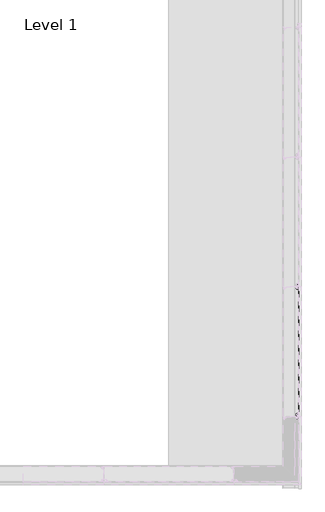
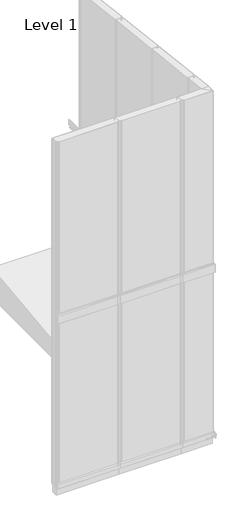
# One storey, part 3 of 12: 1 plate.
"""IFC4 building model written with IfcOpenShell, lengths in millimetres."""

from ifc_helpers import new_model, si_unit, frame, origin, place, context, project, spatial, polyline, circle_curve, ellipse_curve, element, save
from ifc_brep_helpers import plane_surface, cylinder_surface, revolved_surface, advanced_brep

model = new_model("IFC4")

# Units and contexts
model_context = context("Model", 3, world=origin())
ifc_project = project(units=[si_unit("LENGTHUNIT", "METRE", prefix="MILLI")], contexts=[model_context])

# Site, building, storey
site = spatial("IfcSite", under=ifc_project)
building = spatial("IfcBuilding", under=site)
storey = spatial("IfcBuildingStorey", under=building, Name="Level 1", Elevation=0.0)

# Plate
placement = place(None, origin())
element("IfcPlate", 1, ObjectType="TR_C_V_FHL_Panel : 120/RAL9006/RAL9002", at=placement, inside=storey, context=model_context, shape_type="AdvancedBrep", body=[
    advanced_brep(
    [(-3994.9155057, 5494.7075287, 2980.0), (-3994.9155057, 4506.1698321, 2980.0), (-3995.4720028, 4504.8263292, 2980.0), (-4000.2954046, 4500.0029273, 2980.0), (-4001.1155057, 4498.0230283, 2980.0), (-4001.1155057, 4495.2069118, 2980.0), (-4003.0155057, 4493.3069118, 2980.0), (-4008.9155057, 4493.3069118, 2980.0), (-4011.7155057, 4490.5069118, 2980.0), (-4011.7155057, 4471.3719831, 2980.0), (-4010.6206993, 4458.8582889, 2980.0), (-4002.8538462, 4457.9046392, 2980.0), (-4002.544232, 4458.8038241, 2980.0), (-4003.3006468, 4459.0642787, 2980.0), (-4003.610261, 4458.1650937, 2980.0), (-4009.8237435, 4458.9280134, 2980.0), (-4010.9155057, 4471.4069118, 2980.0), (-4010.9155057, 4490.5069118, 2980.0), (-4008.9155057, 4492.5069118, 2980.0), (-4003.0155057, 4492.5069118, 2980.0), (-4000.3155057, 4495.2069118, 2980.0), (-4000.3155057, 4498.0230283, 2980.0), (-3999.7297192, 4499.4372419, 2980.0), (-3994.9063173, 4504.2606438, 2980.0), (-3994.1155057, 4506.1698321, 2980.0), (-3994.1155057, 5494.7075287, 2980.0), (-3994.9741101, 5496.6821837, 2980.0), (-3996.9197088, 5498.4964839, 2980.0), (-4000.1155057, 5497.1069118, 2980.0), (-4000.1155057, 5464.7801836, 2980.0), (-4000.2517092, 5463.9662632, 2980.0), (-4002.5909089, 5457.1727339, 2980.0), (-4010.5519334, 5458.1502248, 2980.0), (-4011.4158468, 5468.0248012, 2980.0), (-4013.9063336, 5470.3069118, 2980.0), (-4014.9155057, 5470.3069118, 2980.0), (-4014.9155057, 5469.5069118, 2980.0), (-4013.9063336, 5469.5069118, 2980.0), (-4012.2128026, 5467.9550766, 2980.0), (-4011.3488891, 5458.0805002, 2980.0), (-4001.8344941, 5456.9122794, 2980.0), (-3999.4952944, 5463.7058087, 2980.0), (-3999.3155057, 5464.7801836, 2980.0), (-3999.3155057, 5497.1069118, 2980.0), (-3997.4653075, 5497.9114009, 2980.0), (-3995.5197088, 5496.0971008, 2980.0), (-3994.1155057, 4506.1698321, 198.4375488), (-3994.1155057, 5494.7075287, 313.3837926), (-3994.9155057, 5494.7075287, 313.3837926), (-3994.9155057, 4506.1698321, 198.4375488), (-3995.4720028, 4504.8263292, 198.2813276), (-4000.2954046, 4500.0029273, 197.7204669), (-4001.1155057, 4498.0230283, 197.4902461), (-4001.1155057, 4495.2069118, 197.1627907), (-4003.0155057, 4493.3069118, 196.9418604), (-4008.9155057, 4493.3069118, 196.9418604), (-4011.7155057, 4490.5069118, 196.616279), (-4011.7155057, 4471.3719831, 194.3912873), (-4010.6206993, 4458.8582889, 192.9362066), (-4002.8538462, 4457.9046392, 192.8253171), (-4002.544232, 4458.8038241, 192.9298735), (-4003.3006468, 4459.0642787, 192.9601589), (-4003.610261, 4458.1650937, 192.8556025), (-4009.8237435, 4458.9280134, 192.9443141), (-4010.9155057, 4471.4069118, 194.3953488), (-4010.9155057, 4490.5069118, 196.616279), (-4008.9155057, 4492.5069118, 196.8488372), (-4003.0155057, 4492.5069118, 196.8488372), (-4000.3155057, 4495.2069118, 197.1627907), (-4000.3155057, 4498.0230283, 197.4902461), (-3999.7297192, 4499.4372419, 197.6546895), (-3994.9063173, 4504.2606438, 198.2155502), (-3994.9741101, 5496.6821837, 313.6134037), (-3996.9197088, 5498.4964839, 313.8243688), (-4000.1155057, 5497.1069118, 313.6627907), (-4000.1155057, 5464.7801836, 309.9038688), (-4000.2517092, 5463.9662632, 309.8092269), (-4002.5909089, 5457.1727339, 309.0192816), (-4010.5519334, 5458.1502248, 309.1329433), (-4011.4158468, 5468.0248012, 310.2811499), (-4013.9063336, 5470.3069118, 310.5465116), (-4014.9155057, 5470.3069118, 310.5465116), (-4014.9155057, 5469.5069118, 310.4534883), (-4013.9063336, 5469.5069118, 310.4534883), (-4012.2128026, 5467.9550766, 310.2730424), (-4011.3488891, 5458.0805002, 309.1248358), (-4001.8344941, 5456.9122794, 308.9889962), (-3999.4952944, 5463.7058087, 309.7789415), (-3999.3155057, 5464.7801836, 309.9038688), (-3999.3155057, 5497.1069118, 313.6627907), (-3997.4653075, 5497.9114009, 313.7563359), (-3995.5197088, 5496.0971008, 313.5453708)],
    [
        (0, 1),
        (1, 2, circle_curve(frame((-3996.8155057, 4506.1698321, 2980.0), z_axis=(0.0, 0.0, -1.0), x_axis=(0.0, -1.0, 0.0)), 1.9)),
        (2, 3),
        (3, 4, circle_curve(frame((-3998.3155057, 4498.0230283, 2980.0), z_axis=(0.0, 0.0, 1.0), x_axis=(0.0, -1.0, 0.0)), 2.8)),
        (4, 5),
        (5, 6, circle_curve(frame((-4003.0155057, 4495.2069118, 2980.0), z_axis=(0.0, 0.0, -1.0), x_axis=(0.0, -1.0, 0.0)), 1.9)),
        (6, 7),
        (7, 8, circle_curve(frame((-4008.9155057, 4490.5069118, 2980.0), z_axis=(0.0, 0.0, 1.0), x_axis=(0.0, -1.0, 0.0)), 2.8)),
        (8, 9),
        (9, 10),
        (10, 11, circle_curve(frame((-4006.6359205, 4459.2069118, 2980.0), z_axis=(0.0, 0.0, 1.0), x_axis=(0.0, -1.0, 0.0)), 4.0)),
        (11, 12),
        (12, 13),
        (13, 14),
        (14, 15, circle_curve(frame((-4006.6359205, 4459.2069118, 2980.0), z_axis=(0.0, 0.0, -1.0), x_axis=(0.0, -1.0, 0.0)), 3.2)),
        (15, 16),
        (16, 17),
        (17, 18, circle_curve(frame((-4008.9155057, 4490.5069118, 2980.0), z_axis=(0.0, 0.0, -1.0), x_axis=(0.0, -1.0, 0.0)), 2.0)),
        (18, 19),
        (19, 20, circle_curve(frame((-4003.0155057, 4495.2069118, 2980.0), z_axis=(0.0, 0.0, 1.0), x_axis=(0.0, -1.0, 0.0)), 2.7)),
        (20, 21),
        (21, 22, circle_curve(frame((-3998.3155057, 4498.0230283, 2980.0), z_axis=(0.0, 0.0, -1.0), x_axis=(0.0, -1.0, 0.0)), 2.0)),
        (22, 23),
        (23, 24, circle_curve(frame((-3996.8155057, 4506.1698321, 2980.0), z_axis=(0.0, 0.0, 1.0), x_axis=(0.0, -1.0, 0.0)), 2.7)),
        (24, 25),
        (25, 26, circle_curve(frame((-3996.8155057, 5494.7075287, 2980.0), z_axis=(0.0, 0.0, 1.0), x_axis=(0.0, -1.0, 0.0)), 2.7)),
        (26, 27),
        (27, 28, circle_curve(frame((-3998.2155057, 5497.1069118, 2980.0), z_axis=(0.0, 0.0, 1.0), x_axis=(0.0, -1.0, 0.0)), 1.9)),
        (28, 29),
        (29, 30, circle_curve(frame((-4002.6155057, 5464.7801836, 2980.0), z_axis=(0.0, 0.0, -1.0), x_axis=(0.0, -1.0, 0.0)), 2.5)),
        (30, 31),
        (31, 32, circle_curve(frame((-4006.4675351, 5458.5075634, 2980.0), z_axis=(0.0, 0.0, -1.0), x_axis=(0.0, -1.0, 0.0)), 4.1)),
        (32, 33),
        (33, 34, circle_curve(frame((-4013.9063336, 5467.8069118, 2980.0), z_axis=(0.0, 0.0, 1.0), x_axis=(0.0, -1.0, 0.0)), 2.5)),
        (34, 35),
        (35, 36),
        (36, 37),
        (37, 38, circle_curve(frame((-4013.9063336, 5467.8069118, 2980.0), z_axis=(0.0, 0.0, -1.0), x_axis=(0.0, -1.0, 0.0)), 1.7)),
        (38, 39),
        (39, 40, circle_curve(frame((-4006.4675351, 5458.5075634, 2980.0), z_axis=(0.0, 0.0, 1.0), x_axis=(0.0, -1.0, 0.0)), 4.9)),
        (40, 41),
        (41, 42, circle_curve(frame((-4002.6155057, 5464.7801836, 2980.0), z_axis=(0.0, 0.0, 1.0), x_axis=(0.0, -1.0, 0.0)), 3.3)),
        (42, 43),
        (43, 44, circle_curve(frame((-3998.2155057, 5497.1069118, 2980.0), z_axis=(0.0, 0.0, -1.0), x_axis=(0.0, -1.0, 0.0)), 1.1)),
        (44, 45),
        (45, 0, circle_curve(frame((-3996.8155057, 5494.7075287, 2980.0), z_axis=(0.0, 0.0, -1.0), x_axis=(0.0, -1.0, 0.0)), 1.9)),
        (24, 46),
        (46, 47),
        (47, 25),
        (0, 48),
        (48, 49),
        (49, 1),
        (49, 50, ellipse_curve(frame((-3996.8155057, 4506.1698321, 198.4375488), z_axis=(0.0, 0.11550085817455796, -0.9933073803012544), x_axis=(0.0, -0.9933073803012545, -0.11550085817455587)), 1.9128017, 1.9)),
        (50, 2),
        (50, 51),
        (51, 3),
        (51, 52, ellipse_curve(frame((-3998.3155057, 4498.0230283, 197.4902461), z_axis=(0.0, -0.11550085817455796, 0.9933073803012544), x_axis=(0.0, 0.9933073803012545, 0.11550085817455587)), 2.8188656, 2.8)),
        (52, 4),
        (52, 53),
        (53, 5),
        (53, 54, ellipse_curve(frame((-4003.0155057, 4495.2069118, 197.1627907), z_axis=(0.0, 0.11550085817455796, -0.9933073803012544), x_axis=(0.0, -0.9933073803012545, -0.11550085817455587)), 1.9128017, 1.9)),
        (54, 6),
        (54, 55),
        (55, 7),
        (55, 56, ellipse_curve(frame((-4008.9155057, 4490.5069118, 196.616279), z_axis=(0.0, -0.11550085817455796, 0.9933073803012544), x_axis=(0.0, 0.9933073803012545, 0.11550085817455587)), 2.8188656, 2.8)),
        (56, 8),
        (56, 57),
        (57, 9),
        (57, 58),
        (58, 10),
        (58, 59, ellipse_curve(frame((-4006.6359205, 4459.2069118, 192.9767442), z_axis=(0.0, -0.11550085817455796, 0.9933073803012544), x_axis=(0.0, 0.9933073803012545, 0.11550085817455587)), 4.0269509, 4.0)),
        (59, 11),
        (59, 60),
        (60, 12),
        (60, 61),
        (61, 13),
        (61, 62),
        (62, 14),
        (62, 63, ellipse_curve(frame((-4006.6359205, 4459.2069118, 192.9767442), z_axis=(0.0, 0.11550085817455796, -0.9933073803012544), x_axis=(0.0, -0.9933073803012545, -0.11550085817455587)), 3.2215607, 3.2)),
        (63, 15),
        (63, 64),
        (64, 16),
        (64, 65),
        (65, 17),
        (65, 66, ellipse_curve(frame((-4008.9155057, 4490.5069118, 196.616279), z_axis=(0.0, 0.11550085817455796, -0.9933073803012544), x_axis=(0.0, -0.9933073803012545, -0.11550085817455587)), 2.0134754, 2.0)),
        (66, 18),
        (66, 67),
        (67, 19),
        (67, 68, ellipse_curve(frame((-4003.0155057, 4495.2069118, 197.1627907), z_axis=(0.0, -0.11550085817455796, 0.9933073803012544), x_axis=(0.0, 0.9933073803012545, 0.11550085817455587)), 2.7181918, 2.7)),
        (68, 20),
        (68, 69),
        (69, 21),
        (69, 70, ellipse_curve(frame((-3998.3155057, 4498.0230283, 197.4902461), z_axis=(0.0, 0.11550085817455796, -0.9933073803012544), x_axis=(0.0, -0.9933073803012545, -0.11550085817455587)), 2.0134754, 2.0)),
        (70, 22),
        (70, 71),
        (71, 23),
        (71, 46, ellipse_curve(frame((-3996.8155057, 4506.1698321, 198.4375488), z_axis=(0.0, -0.11550085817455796, 0.9933073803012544), x_axis=(0.0, 0.9933073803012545, 0.11550085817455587)), 2.7181918, 2.7)),
        (47, 72, ellipse_curve(frame((-3996.8155057, 5494.7075287, 313.3837926), z_axis=(0.0, -0.11550085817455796, 0.9933073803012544), x_axis=(0.0, 0.9933073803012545, 0.11550085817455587)), 2.7181918, 2.7)),
        (72, 26),
        (72, 73),
        (73, 27),
        (73, 74, ellipse_curve(frame((-3998.2155057, 5497.1069118, 313.6627907), z_axis=(0.0, -0.11550085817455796, 0.9933073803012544), x_axis=(0.0, 0.9933073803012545, 0.11550085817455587)), 1.9128017, 1.9)),
        (74, 28),
        (74, 75),
        (75, 29),
        (75, 76, ellipse_curve(frame((-4002.6155057, 5464.7801836, 309.9038688), z_axis=(0.0, 0.11550085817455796, -0.9933073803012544), x_axis=(0.0, -0.9933073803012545, -0.11550085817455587)), 2.5168443, 2.5)),
        (76, 30),
        (76, 77),
        (77, 31),
        (77, 78, ellipse_curve(frame((-4006.4675351, 5458.5075634, 309.1744943), z_axis=(0.0, 0.11550085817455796, -0.9933073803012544), x_axis=(0.0, -0.9933073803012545, -0.11550085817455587)), 4.1276246, 4.1)),
        (78, 32),
        (78, 79),
        (79, 33),
        (79, 80, ellipse_curve(frame((-4013.9063336, 5467.8069118, 310.2558139), z_axis=(0.0, -0.11550085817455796, 0.9933073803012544), x_axis=(0.0, 0.9933073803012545, 0.11550085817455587)), 2.5168443, 2.5)),
        (80, 34),
        (80, 81),
        (81, 35),
        (81, 82),
        (82, 36),
        (82, 83),
        (83, 37),
        (83, 84, ellipse_curve(frame((-4013.9063336, 5467.8069118, 310.2558139), z_axis=(0.0, 0.11550085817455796, -0.9933073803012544), x_axis=(0.0, -0.9933073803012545, -0.11550085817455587)), 1.7114541, 1.7)),
        (84, 38),
        (84, 85),
        (85, 39),
        (85, 86, ellipse_curve(frame((-4006.4675351, 5458.5075634, 309.1744943), z_axis=(0.0, -0.11550085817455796, 0.9933073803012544), x_axis=(0.0, 0.9933073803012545, 0.11550085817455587)), 4.9330148, 4.9)),
        (86, 40),
        (86, 87),
        (87, 41),
        (87, 88, ellipse_curve(frame((-4002.6155057, 5464.7801836, 309.9038688), z_axis=(0.0, -0.11550085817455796, 0.9933073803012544), x_axis=(0.0, 0.9933073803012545, 0.11550085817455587)), 3.3222345, 3.3)),
        (88, 42),
        (88, 89),
        (89, 43),
        (89, 90, ellipse_curve(frame((-3998.2155057, 5497.1069118, 313.6627907), z_axis=(0.0, 0.11550085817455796, -0.9933073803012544), x_axis=(0.0, -0.9933073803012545, -0.11550085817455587)), 1.1074115, 1.1)),
        (90, 44),
        (90, 91),
        (91, 45),
        (91, 48, ellipse_curve(frame((-3996.8155057, 5494.7075287, 313.3837926), z_axis=(0.0, 0.11550085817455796, -0.9933073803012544), x_axis=(0.0, -0.9933073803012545, -0.11550085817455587)), 1.9128017, 1.9)),
    ],
    [
        plane_surface(frame((-3994.9155057, 4485.2850853, 2980.0), z_axis=(0.0, 0.0, 1.0), x_axis=(0.0, -1.0, 0.0))),
        plane_surface(frame((-3994.1155057, 4506.1698321, 2980.0), z_axis=(1.0, 0.0, 0.0), x_axis=(0.0, 0.0, -1.0))),
        plane_surface(frame((-3994.9155057, 5494.7075287, 2980.0), z_axis=(-1.0, 0.0, 0.0), x_axis=(0.0, 0.0, -1.0))),
        revolved_surface(polyline([(-3996.8155057, 4504.269832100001, 198.21661856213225), (-3996.8155057, 4504.269832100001, 2980.0)]), (-3996.8155057, 4506.1698321, 150.0), (0.0, 0.0, -1.0)),
        plane_surface(frame((-3995.4720028, 4504.8263292, 2980.0), z_axis=(-0.7071067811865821, 0.7071067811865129, 0.0), x_axis=(0.0, 0.0, -1.0))),
        cylinder_surface(frame((-3998.3155057, 4498.0230283, 150.0), z_axis=(0.0, 0.0, 1.0), x_axis=(0.0, -1.0, 0.0)), 2.8),
        plane_surface(frame((-4001.1155057, 4498.0230283, 2980.0), z_axis=(-1.0, 0.0, 0.0), x_axis=(0.0, 0.0, -1.0))),
        revolved_surface(polyline([(-4003.0155057, 4493.3069118, 196.9418604), (-4003.0155057, 4493.3069118, 2980.0)]), (-4003.0155057, 4495.2069118, 150.0), (0.0, 0.0, -1.0)),
        plane_surface(frame((-4003.0155057, 4493.3069118, 2980.0), z_axis=(0.0, 1.0, 0.0), x_axis=(0.0, 0.0, -1.0))),
        cylinder_surface(frame((-4008.9155057, 4490.5069118, 150.0), z_axis=(0.0, 0.0, 1.0), x_axis=(0.0, -1.0, 0.0)), 2.8),
        plane_surface(frame((-4011.7155057, 4490.5069118, 2980.0), z_axis=(-1.0, 0.0, 0.0), x_axis=(0.0, 0.0, -1.0))),
        plane_surface(frame((-4011.7155057, 4471.3719831, 2980.0), z_axis=(-0.9961946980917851, -0.08715574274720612, 0.0), x_axis=(0.0, 0.0, -1.0))),
        cylinder_surface(frame((-4006.6359205, 4459.2069118, 150.0), z_axis=(0.0, 0.0, 1.0), x_axis=(0.0, -1.0, 0.0)), 4.0),
        plane_surface(frame((-4002.8538462, 4457.9046392, 2980.0), z_axis=(0.9455185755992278, -0.32556815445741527, 0.0), x_axis=(0.0, 0.0, -1.0))),
        plane_surface(frame((-4002.544232, 4458.8038241, 2980.0), z_axis=(0.325568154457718, 0.9455185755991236, 0.0), x_axis=(0.0, 0.0, -1.0))),
        plane_surface(frame((-4003.3006468, 4459.0642787, 2980.0), z_axis=(-0.9455185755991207, 0.32556815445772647, 0.0), x_axis=(0.0, 0.0, -1.0))),
        revolved_surface(polyline([(-4006.6359205, 4456.0069118, 192.6046511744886), (-4006.6359205, 4456.0069118, 2980.0)]), (-4006.6359205, 4459.2069118, 150.0), (0.0, 0.0, -1.0)),
        plane_surface(frame((-4009.8237435, 4458.9280134, 2980.0), z_axis=(0.9961946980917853, 0.08715574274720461, 0.0), x_axis=(0.0, 0.0, -1.0))),
        plane_surface(frame((-4010.9155057, 4471.4069118, 2980.0), z_axis=(1.0, 0.0, 0.0), x_axis=(0.0, 0.0, -1.0))),
        revolved_surface(polyline([(-4008.9155057, 4488.5069118, 196.38372086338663), (-4008.9155057, 4488.5069118, 2980.0)]), (-4008.9155057, 4490.5069118, 150.0), (0.0, 0.0, -1.0)),
        plane_surface(frame((-4008.9155057, 4492.5069118, 2980.0), z_axis=(0.0, -1.0, 0.0), x_axis=(0.0, 0.0, -1.0))),
        cylinder_surface(frame((-4003.0155057, 4495.2069118, 150.0), z_axis=(0.0, 0.0, 1.0), x_axis=(0.0, -1.0, 0.0)), 2.7),
        plane_surface(frame((-4000.3155057, 4495.2069118, 2980.0), z_axis=(1.0, 0.0, 0.0), x_axis=(0.0, 0.0, -1.0))),
        revolved_surface(polyline([(-3998.3155057, 4496.0230283, 197.25768796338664), (-3998.3155057, 4496.0230283, 2980.0)]), (-3998.3155057, 4498.0230283, 150.0), (0.0, 0.0, -1.0)),
        plane_surface(frame((-3999.7297192, 4499.4372419, 2980.0), z_axis=(0.7071067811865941, -0.707106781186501, 0.0), x_axis=(0.0, 0.0, -1.0))),
        cylinder_surface(frame((-3996.8155057, 4506.1698321, 150.0), z_axis=(0.0, 0.0, 1.0), x_axis=(0.0, -1.0, 0.0)), 2.7),
        cylinder_surface(frame((-3996.8155057, 5494.7075287, 150.0), z_axis=(0.0, 0.0, 1.0), x_axis=(0.0, -1.0, 0.0)), 2.7),
        plane_surface(frame((-3994.9741101, 5496.6821837, 2980.0), z_axis=(0.6819983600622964, 0.7313537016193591, 0.0), x_axis=(0.0, 0.0, -1.0))),
        cylinder_surface(frame((-3998.2155057, 5497.1069118, 150.0), z_axis=(0.0, 0.0, 1.0), x_axis=(0.0, -1.0, 0.0)), 1.9),
        plane_surface(frame((-4000.1155057, 5497.1069118, 2980.0), z_axis=(-1.0, 0.0, 0.0), x_axis=(0.0, 0.0, -1.0))),
        revolved_surface(polyline([(-4002.6155057, 5462.2801836, 309.6131711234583), (-4002.6155057, 5462.2801836, 2980.0)]), (-4002.6155057, 5464.7801836, 150.0), (0.0, 0.0, -1.0)),
        plane_surface(frame((-4000.2517092, 5463.9662632, 2980.0), z_axis=(-0.9455185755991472, 0.3255681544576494, 0.0), x_axis=(0.0, 0.0, -1.0))),
        revolved_surface(polyline([(-4006.4675351, 5454.4075634, 308.69775011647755), (-4006.4675351, 5454.4075634, 2980.0)]), (-4006.4675351, 5458.5075634, 150.0), (0.0, 0.0, -1.0)),
        plane_surface(frame((-4010.5519334, 5458.1502248, 2980.0), z_axis=(0.9961946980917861, 0.08715574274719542, 0.0), x_axis=(0.0, 0.0, -1.0))),
        cylinder_surface(frame((-4013.9063336, 5467.8069118, 150.0), z_axis=(0.0, 0.0, 1.0), x_axis=(0.0, -1.0, 0.0)), 2.5),
        plane_surface(frame((-4013.9063336, 5470.3069118, 2980.0), z_axis=(0.0, 1.0, 0.0), x_axis=(0.0, 0.0, -1.0))),
        plane_surface(frame((-4014.9155057, 5470.3069118, 2980.0), z_axis=(-1.0, 0.0, 0.0), x_axis=(0.0, 0.0, -1.0))),
        plane_surface(frame((-4014.9155057, 5469.5069118, 2980.0), z_axis=(0.0, -1.0, 0.0), x_axis=(0.0, 0.0, -1.0))),
        revolved_surface(polyline([(-4013.9063336, 5466.1069118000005, 310.0581394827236), (-4013.9063336, 5466.1069118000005, 2980.0)]), (-4013.9063336, 5467.8069118, 150.0), (0.0, 0.0, -1.0)),
        plane_surface(frame((-4012.2128026, 5467.9550766, 2980.0), z_axis=(-0.9961946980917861, -0.08715574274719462, 0.0), x_axis=(0.0, 0.0, -1.0))),
        cylinder_surface(frame((-4006.4675351, 5458.5075634, 150.0), z_axis=(0.0, 0.0, 1.0), x_axis=(0.0, -1.0, 0.0)), 4.9),
        plane_surface(frame((-4001.8344941, 5456.9122794, 2980.0), z_axis=(0.9455185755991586, -0.3255681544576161, 0.0), x_axis=(0.0, 0.0, -1.0))),
        cylinder_surface(frame((-4002.6155057, 5464.7801836, 150.0), z_axis=(0.0, 0.0, 1.0), x_axis=(0.0, -1.0, 0.0)), 3.3),
        plane_surface(frame((-3999.3155057, 5464.7801836, 2980.0), z_axis=(1.0, 0.0, 0.0), x_axis=(0.0, 0.0, -1.0))),
        revolved_surface(polyline([(-3998.2155057, 5496.006911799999, 313.53488372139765), (-3998.2155057, 5496.006911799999, 2980.0)]), (-3998.2155057, 5497.1069118, 150.0), (0.0, 0.0, -1.0)),
        plane_surface(frame((-3997.4653075, 5497.9114009, 2980.0), z_axis=(-0.6819983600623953, -0.7313537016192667, 0.0), x_axis=(0.0, 0.0, -1.0))),
        revolved_surface(polyline([(-3996.8155057, 5492.8075287, 313.1628623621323), (-3996.8155057, 5492.8075287, 2980.0)]), (-3996.8155057, 5494.7075287, 150.0), (0.0, 0.0, -1.0)),
        plane_surface(frame((-3994.1155057, 6239.6069121, 400.0), z_axis=(0.0, 0.11550085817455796, -0.9933073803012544), x_axis=(0.0, 0.9933073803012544, 0.11550085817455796))),
    ],
    [
        (0, [[1, 2, 3, 4, 5, 6, 7, 8, 9, 10, 11, 12, 13, 14, 15, 16, 17, 18, 19, 20, 21, 22, 23, 24, 25, 26, 27, 28, 29, 30, 31, 32, 33, 34, 35, 36, 37, 38, 39, 40, 41, 42, 43, 44, 45, 46]]),
        (1, [[-25, 47, 48, 49]]),
        (2, [[-1, 50, 51, 52]]),
        (3, [[-2, -52, 53, 54]]),
        (4, [[-3, -54, 55, 56]]),
        (5, [[-4, -56, 57, 58]]),
        (6, [[-5, -58, 59, 60]]),
        (7, [[-6, -60, 61, 62]]),
        (8, [[-7, -62, 63, 64]]),
        (9, [[-8, -64, 65, 66]]),
        (10, [[-9, -66, 67, 68]]),
        (11, [[-10, -68, 69, 70]]),
        (12, [[-11, -70, 71, 72]]),
        (13, [[-12, -72, 73, 74]]),
        (14, [[-13, -74, 75, 76]]),
        (15, [[-14, -76, 77, 78]]),
        (16, [[-15, -78, 79, 80]]),
        (17, [[-16, -80, 81, 82]]),
        (18, [[-17, -82, 83, 84]]),
        (19, [[-18, -84, 85, 86]]),
        (20, [[-19, -86, 87, 88]]),
        (21, [[-20, -88, 89, 90]]),
        (22, [[-21, -90, 91, 92]]),
        (23, [[-22, -92, 93, 94]]),
        (24, [[-23, -94, 95, 96]]),
        (25, [[-24, -96, 97, -47]]),
        (26, [[-26, -49, 98, 99]]),
        (27, [[-27, -99, 100, 101]]),
        (28, [[-28, -101, 102, 103]]),
        (29, [[-29, -103, 104, 105]]),
        (30, [[-30, -105, 106, 107]]),
        (31, [[-31, -107, 108, 109]]),
        (32, [[-32, -109, 110, 111]]),
        (33, [[-33, -111, 112, 113]]),
        (34, [[-34, -113, 114, 115]]),
        (35, [[-35, -115, 116, 117]]),
        (36, [[-36, -117, 118, 119]]),
        (37, [[-37, -119, 120, 121]]),
        (38, [[-38, -121, 122, 123]]),
        (39, [[-39, -123, 124, 125]]),
        (40, [[-40, -125, 126, 127]]),
        (41, [[-41, -127, 128, 129]]),
        (42, [[-42, -129, 130, 131]]),
        (43, [[-43, -131, 132, 133]]),
        (44, [[-44, -133, 134, 135]]),
        (45, [[-45, -135, 136, 137]]),
        (46, [[-46, -137, 138, -50]]),
        (47, [[-48, -97, -95, -93, -91, -89, -87, -85, -83, -81, -79, -77, -75, -73, -71, -69, -67, -65, -63, -61, -59, -57, -55, -53, -51, -138, -136, -134, -132, -130, -128, -126, -124, -122, -120, -118, -116, -114, -112, -110, -108, -106, -104, -102, -100, -98]]),
    ],
),
    advanced_brep(
    [(-4113.3155057, 5449.7069118, 2980.0), (-4113.3155057, 4479.7850864, 2980.0), (-4112.6711406, 4478.2294515, 2980.0), (-4108.2820533, 4473.8403642, 2980.0), (-4107.3155057, 4471.5069118, 2980.0), (-4107.3155057, 4469.6069118, 2980.0), (-4011.5610819, 4469.6069118, 2980.0), (-4011.7155057, 4471.3719831, 2980.0), (-4011.7155057, 4490.5069118, 2980.0), (-4008.9155057, 4493.3069118, 2980.0), (-4003.0155057, 4493.3069118, 2980.0), (-4001.1155057, 4495.2069118, 2980.0), (-4001.1155057, 4498.0230283, 2980.0), (-4000.2954046, 4500.0029273, 2980.0), (-3995.4720028, 4504.8263292, 2980.0), (-3994.9155057, 4506.1698321, 2980.0), (-3994.9155057, 5453.6075634, 2980.0), (-4006.4675351, 5453.6075634, 2980.0), (-4011.3488891, 5458.0805002, 2980.0), (-4012.2128026, 5467.9550766, 2980.0), (-4013.9063336, 5469.5069118, 2980.0), (-4014.9155057, 5469.6069118, 2980.0), (-4088.9755057, 5469.6069118, 2980.0), (-4088.9755057, 5461.7069118, 2980.0), (-4096.5080645, 5461.7069118, 2980.0), (-4099.4132474, 5459.2691739, 2980.0), (-4100.4800727, 5453.2189071, 2980.0), (-4104.6655057, 5449.7069118, 2980.0), (-4113.3155057, 5449.7069118, 308.1511628), (-4113.3155057, 4479.7850864, 195.3695551), (-4112.6711406, 4478.2294515, 195.1886674), (-4108.2820533, 4473.8403642, 194.6783084), (-4107.3155057, 4471.5069118, 194.4069767), (-4107.3155057, 4469.6069118, 194.1860465), (-4011.5610819, 4469.6069118, 194.1860465), (-4011.7155057, 4471.3719831, 194.3912873), (-4011.7155057, 4490.5069118, 196.616279), (-4008.9155057, 4493.3069118, 196.9418604), (-4003.0155057, 4493.3069118, 196.9418604), (-4001.1155057, 4495.2069118, 197.1627907), (-4001.1155057, 4498.0230283, 197.4902461), (-4000.2954046, 4500.0029273, 197.7204669), (-3995.4720028, 4504.8263292, 198.2813276), (-3994.9155057, 4506.1698321, 198.4375488), (-3994.9155057, 5453.6075634, 308.6047269), (-4006.4675351, 5453.6075634, 308.6047269), (-4011.3488891, 5458.0805002, 309.1248358), (-4012.2128026, 5467.9550766, 310.2730424), (-4013.9063336, 5469.5069118, 310.4534883), (-4014.9155057, 5469.6069118, 310.4651162), (-4088.9755057, 5469.6069118, 310.4651162), (-4088.9755057, 5461.7069118, 309.5465116), (-4096.5080645, 5461.7069118, 309.5465116), (-4099.4132474, 5459.2691739, 309.2630537), (-4100.4800727, 5453.2189071, 308.5595343), (-4104.6655057, 5449.7069118, 308.1511628)],
    [
        (0, 1),
        (1, 2, circle_curve(frame((-4111.1155057, 4479.7850864, 2980.0), z_axis=(0.0, 0.0, 1.0), x_axis=(0.0, -1.0, 0.0)), 2.2)),
        (2, 3),
        (3, 4, circle_curve(frame((-4110.6155057, 4471.5069118, 2980.0), z_axis=(0.0, 0.0, -1.0), x_axis=(0.0, -1.0, 0.0)), 3.3)),
        (4, 5),
        (5, 6),
        (6, 7),
        (7, 8),
        (8, 9, circle_curve(frame((-4008.9155057, 4490.5069118, 2980.0), z_axis=(0.0, 0.0, -1.0), x_axis=(0.0, -1.0, 0.0)), 2.8)),
        (9, 10),
        (10, 11, circle_curve(frame((-4003.0155057, 4495.2069118, 2980.0), z_axis=(0.0, 0.0, 1.0), x_axis=(0.0, -1.0, 0.0)), 1.9)),
        (11, 12),
        (12, 13, circle_curve(frame((-3998.3155057, 4498.0230283, 2980.0), z_axis=(0.0, 0.0, -1.0), x_axis=(0.0, -1.0, 0.0)), 2.8)),
        (13, 14),
        (14, 15, circle_curve(frame((-3996.8155057, 4506.1698321, 2980.0), z_axis=(0.0, 0.0, 1.0), x_axis=(0.0, -1.0, 0.0)), 1.9)),
        (15, 16),
        (16, 17),
        (17, 18, circle_curve(frame((-4006.4675351, 5458.5075634, 2980.0), z_axis=(0.0, 0.0, -1.0), x_axis=(0.0, -1.0, 0.0)), 4.9)),
        (18, 19),
        (19, 20, circle_curve(frame((-4013.9063336, 5467.8069118, 2980.0), z_axis=(0.0, 0.0, 1.0), x_axis=(0.0, -1.0, 0.0)), 1.7)),
        (20, 21),
        (21, 22),
        (22, 23),
        (23, 24),
        (24, 25, circle_curve(frame((-4096.5080645, 5458.7569118, 2980.0), z_axis=(0.0, 0.0, 1.0), x_axis=(0.0, -1.0, 0.0)), 2.95)),
        (25, 26),
        (26, 27, circle_curve(frame((-4104.6655057, 5453.9569118, 2980.0), z_axis=(0.0, 0.0, -1.0), x_axis=(0.0, -1.0, 0.0)), 4.25)),
        (27, 0),
        (0, 28),
        (28, 29),
        (29, 1),
        (29, 30, ellipse_curve(frame((-4111.1155057, 4479.7850864, 195.3695551), z_axis=(0.0, -0.11550085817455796, 0.9933073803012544), x_axis=(0.0, 0.9933073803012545, 0.11550085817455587)), 2.214823, 2.2)),
        (30, 2),
        (30, 31),
        (31, 3),
        (31, 32, ellipse_curve(frame((-4110.6155057, 4471.5069118, 194.4069767), z_axis=(0.0, 0.11550085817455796, -0.9933073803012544), x_axis=(0.0, -0.9933073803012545, -0.11550085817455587)), 3.3222345, 3.3)),
        (32, 4),
        (32, 33),
        (33, 5),
        (33, 34),
        (34, 6),
        (34, 35),
        (35, 7),
        (35, 36),
        (36, 8),
        (36, 37, ellipse_curve(frame((-4008.9155057, 4490.5069118, 196.616279), z_axis=(0.0, 0.11550085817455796, -0.9933073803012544), x_axis=(0.0, -0.9933073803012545, -0.11550085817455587)), 2.8188656, 2.8)),
        (37, 9),
        (37, 38),
        (38, 10),
        (38, 39, ellipse_curve(frame((-4003.0155057, 4495.2069118, 197.1627907), z_axis=(0.0, -0.11550085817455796, 0.9933073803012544), x_axis=(0.0, 0.9933073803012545, 0.11550085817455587)), 1.9128017, 1.9)),
        (39, 11),
        (39, 40),
        (40, 12),
        (40, 41, ellipse_curve(frame((-3998.3155057, 4498.0230283, 197.4902461), z_axis=(0.0, 0.11550085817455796, -0.9933073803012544), x_axis=(0.0, -0.9933073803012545, -0.11550085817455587)), 2.8188656, 2.8)),
        (41, 13),
        (41, 42),
        (42, 14),
        (42, 43, ellipse_curve(frame((-3996.8155057, 4506.1698321, 198.4375488), z_axis=(0.0, -0.11550085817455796, 0.9933073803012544), x_axis=(0.0, 0.9933073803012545, 0.11550085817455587)), 1.9128017, 1.9)),
        (43, 15),
        (43, 44),
        (44, 16),
        (44, 45),
        (45, 17),
        (45, 46, ellipse_curve(frame((-4006.4675351, 5458.5075634, 309.1744943), z_axis=(0.0, 0.11550085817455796, -0.9933073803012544), x_axis=(0.0, -0.9933073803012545, -0.11550085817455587)), 4.9330148, 4.9)),
        (46, 18),
        (46, 47),
        (47, 19),
        (47, 48, ellipse_curve(frame((-4013.9063336, 5467.8069118, 310.2558139), z_axis=(0.0, -0.11550085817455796, 0.9933073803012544), x_axis=(0.0, 0.9933073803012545, 0.11550085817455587)), 1.7114541, 1.7)),
        (48, 20),
        (48, 49),
        (49, 21),
        (49, 50),
        (50, 22),
        (50, 51),
        (51, 23),
        (51, 52),
        (52, 24),
        (52, 53, ellipse_curve(frame((-4096.5080645, 5458.7569118, 309.2034883), z_axis=(0.0, -0.11550085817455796, 0.9933073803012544), x_axis=(0.0, 0.9933073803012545, 0.11550085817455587)), 2.9698763, 2.95)),
        (53, 25),
        (53, 54),
        (54, 26),
        (54, 55, ellipse_curve(frame((-4104.6655057, 5453.9569118, 308.6453488), z_axis=(0.0, 0.11550085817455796, -0.9933073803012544), x_axis=(0.0, -0.9933073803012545, -0.11550085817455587)), 4.2786353, 4.25)),
        (55, 27),
        (55, 28),
    ],
    [
        plane_surface(frame((-4113.3155057, 4479.7850864, 2980.0), z_axis=(0.0, 0.0, 1.0), x_axis=(0.0, -1.0, 0.0))),
        plane_surface(frame((-4113.3155057, 5449.7069118, 2980.0), z_axis=(-1.0, 0.0, 0.0), x_axis=(0.0, 0.0, -1.0))),
        cylinder_surface(frame((-4111.1155057, 4479.7850864, 150.0), z_axis=(0.0, 0.0, 1.0), x_axis=(0.0, -1.0, 0.0)), 2.2),
        plane_surface(frame((-4112.6711406, 4478.2294515, 2980.0), z_axis=(-0.7071067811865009, -0.7071067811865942, 0.0), x_axis=(0.0, 0.0, -1.0))),
        revolved_surface(polyline([(-4110.6155057, 4468.2069118, 194.02325576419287), (-4110.6155057, 4468.2069118, 2980.0)]), (-4110.6155057, 4471.5069118, 150.0), (0.0, 0.0, -1.0)),
        plane_surface(frame((-4107.3155057, 4471.5069118, 2980.0), z_axis=(-1.0, 0.0, 0.0), x_axis=(0.0, 0.0, -1.0))),
        plane_surface(frame((-4107.3155057, 4469.6069118, 2980.0), z_axis=(0.0, -1.0, 0.0), x_axis=(0.0, 0.0, -1.0))),
        plane_surface(frame((-4011.5610819, 4469.6069118, 2980.0), z_axis=(0.9961946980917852, 0.08715574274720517, 0.0), x_axis=(0.0, 0.0, -1.0))),
        plane_surface(frame((-4011.7155057, 4471.3719831, 2980.0), z_axis=(1.0, 0.0, 0.0), x_axis=(0.0, 0.0, -1.0))),
        revolved_surface(polyline([(-4008.9155057, 4487.7069118, 196.29069760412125), (-4008.9155057, 4487.7069118, 2980.0)]), (-4008.9155057, 4490.5069118, 150.0), (0.0, 0.0, -1.0)),
        plane_surface(frame((-4008.9155057, 4493.3069118, 2980.0), z_axis=(0.0, -1.0, 0.0), x_axis=(0.0, 0.0, -1.0))),
        cylinder_surface(frame((-4003.0155057, 4495.2069118, 150.0), z_axis=(0.0, 0.0, 1.0), x_axis=(0.0, -1.0, 0.0)), 1.9),
        plane_surface(frame((-4001.1155057, 4495.2069118, 2980.0), z_axis=(1.0, 0.0, 0.0), x_axis=(0.0, 0.0, -1.0))),
        revolved_surface(polyline([(-3998.3155057, 4495.2230283, 197.16466470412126), (-3998.3155057, 4495.2230283, 2980.0)]), (-3998.3155057, 4498.0230283, 150.0), (0.0, 0.0, -1.0)),
        plane_surface(frame((-4000.2954046, 4500.0029273, 2980.0), z_axis=(0.707106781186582, -0.7071067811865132, 0.0), x_axis=(0.0, 0.0, -1.0))),
        cylinder_surface(frame((-3996.8155057, 4506.1698321, 150.0), z_axis=(0.0, 0.0, 1.0), x_axis=(0.0, -1.0, 0.0)), 1.9),
        plane_surface(frame((-3994.9155057, 4506.1698321, 2980.0), z_axis=(1.0, 0.0, 0.0), x_axis=(0.0, 0.0, -1.0))),
        plane_surface(frame((-3994.9155057, 5453.6075634, 2980.0), z_axis=(0.0, 1.0, 0.0), x_axis=(0.0, 0.0, -1.0))),
        revolved_surface(polyline([(-4006.4675351, 5453.607563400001, 308.6047268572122), (-4006.4675351, 5453.607563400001, 2980.0)]), (-4006.4675351, 5458.5075634, 150.0), (0.0, 0.0, -1.0)),
        plane_surface(frame((-4011.3488891, 5458.0805002, 2980.0), z_axis=(0.9961946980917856, 0.08715574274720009, 0.0), x_axis=(0.0, 0.0, -1.0))),
        cylinder_surface(frame((-4013.9063336, 5467.8069118, 150.0), z_axis=(0.0, 0.0, 1.0), x_axis=(0.0, -1.0, 0.0)), 1.7),
        plane_surface(frame((-4013.9063336, 5469.5069118, 2980.0), z_axis=(0.0986081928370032, 0.9951263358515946, 0.0), x_axis=(0.0, 0.0, -1.0))),
        plane_surface(frame((-4014.9155057, 5469.6069118, 2980.0), z_axis=(0.0, 1.0, 0.0), x_axis=(0.0, 0.0, -1.0))),
        plane_surface(frame((-4088.9755057, 5469.6069118, 2980.0), z_axis=(-1.0, 0.0, 0.0), x_axis=(0.0, 0.0, -1.0))),
        plane_surface(frame((-4088.9755057, 5461.7069118, 2980.0), z_axis=(0.0, 1.0, 0.0), x_axis=(0.0, 0.0, -1.0))),
        cylinder_surface(frame((-4096.5080645, 5458.7569118, 150.0), z_axis=(0.0, 0.0, 1.0), x_axis=(0.0, -1.0, 0.0)), 2.95),
        plane_surface(frame((-4099.4132474, 5459.2691739, 2980.0), z_axis=(-0.984807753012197, 0.1736481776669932, 0.0), x_axis=(0.0, 0.0, -1.0))),
        revolved_surface(polyline([(-4104.6655057, 5449.7069118, 308.15116275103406), (-4104.6655057, 5449.7069118, 2980.0)]), (-4104.6655057, 5453.9569118, 150.0), (0.0, 0.0, -1.0)),
        plane_surface(frame((-4104.6655057, 5449.7069118, 2980.0), z_axis=(0.0, 1.0, 0.0), x_axis=(0.0, 0.0, -1.0))),
        plane_surface(frame((-3994.1155057, 6239.6069121, 400.0), z_axis=(0.0, 0.11550085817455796, -0.9933073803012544), x_axis=(0.0, 0.9933073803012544, 0.11550085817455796))),
    ],
    [
        (0, [[1, 2, 3, 4, 5, 6, 7, 8, 9, 10, 11, 12, 13, 14, 15, 16, 17, 18, 19, 20, 21, 22, 23, 24, 25, 26, 27, 28]]),
        (1, [[-1, 29, 30, 31]]),
        (2, [[-2, -31, 32, 33]]),
        (3, [[-3, -33, 34, 35]]),
        (4, [[-4, -35, 36, 37]]),
        (5, [[-5, -37, 38, 39]]),
        (6, [[-6, -39, 40, 41]]),
        (7, [[-7, -41, 42, 43]]),
        (8, [[-8, -43, 44, 45]]),
        (9, [[-9, -45, 46, 47]]),
        (10, [[-10, -47, 48, 49]]),
        (11, [[-11, -49, 50, 51]]),
        (12, [[-12, -51, 52, 53]]),
        (13, [[-13, -53, 54, 55]]),
        (14, [[-14, -55, 56, 57]]),
        (15, [[-15, -57, 58, 59]]),
        (16, [[-16, -59, 60, 61]]),
        (17, [[-17, -61, 62, 63]]),
        (18, [[-18, -63, 64, 65]]),
        (19, [[-19, -65, 66, 67]]),
        (20, [[-20, -67, 68, 69]]),
        (21, [[-21, -69, 70, 71]]),
        (22, [[-22, -71, 72, 73]]),
        (23, [[-23, -73, 74, 75]]),
        (24, [[-24, -75, 76, 77]]),
        (25, [[-25, -77, 78, 79]]),
        (26, [[-26, -79, 80, 81]]),
        (27, [[-27, -81, 82, 83]]),
        (28, [[-28, -83, 84, -29]]),
        (29, [[-30, -84, -82, -80, -78, -76, -74, -72, -70, -68, -66, -64, -62, -60, -58, -56, -54, -52, -50, -48, -46, -44, -42, -40, -38, -36, -34, -32]]),
    ],
),
    advanced_brep(
    [(-4093.1155057, 5462.5069118, 2980.0), (-4096.5080645, 5462.5069118, 2980.0), (-4100.2010936, 5459.4080925, 2980.0), (-4101.2679189, 5453.3578256, 2980.0), (-4108.1155057, 5453.9569118, 2980.0), (-4108.1155057, 5471.5569118, 2980.0), (-4111.4443639, 5472.93577, 2980.0), (-4113.3100493, 5471.0700846, 2980.0), (-4114.1155057, 5469.125541, 2980.0), (-4114.1155057, 4479.7850864, 2980.0), (-4113.236826, 4477.6637661, 2980.0), (-4108.8477387, 4473.2746788, 2980.0), (-4108.1155057, 4471.5069118, 2980.0), (-4108.1155057, 4456.7569118, 2980.0), (-4101.6648805, 4456.1925552, 2980.0), (-4100.9215675, 4460.4080925, 2980.0), (-4097.2285384, 4463.5069118, 2980.0), (-4093.1155057, 4463.5069118, 2980.0), (-4093.1155057, 4464.3069118, 2980.0), (-4097.2285384, 4464.3069118, 2980.0), (-4101.7094137, 4460.547011, 2980.0), (-4102.4527267, 4456.3314738, 2980.0), (-4107.3155057, 4456.7569118, 2980.0), (-4107.3155057, 4471.5069118, 2980.0), (-4108.2820533, 4473.8403642, 2980.0), (-4112.6711406, 4478.2294515, 2980.0), (-4113.3155057, 4479.7850864, 2980.0), (-4113.3155057, 5469.125541, 2980.0), (-4112.7443639, 5470.5043992, 2980.0), (-4110.8786785, 5472.3700846, 2980.0), (-4108.9155057, 5471.5569118, 2980.0), (-4108.9155057, 5453.9569118, 2980.0), (-4100.4800727, 5453.2189071, 2980.0), (-4099.4132474, 5459.2691739, 2980.0), (-4096.5080645, 5461.7069118, 2980.0), (-4093.1155057, 5461.7069118, 2980.0), (-4093.1155057, 5462.5069118, 309.6395348), (-4096.5080645, 5462.5069118, 309.6395348), (-4100.2010936, 5459.4080925, 309.279207), (-4101.2679189, 5453.3578256, 308.5756876), (-4108.1155057, 5453.9569118, 308.6453488), (-4108.1155057, 5471.5569118, 310.6918604), (-4111.4443639, 5472.93577, 310.8521928), (-4113.3100493, 5471.0700846, 310.6352526), (-4114.1155057, 5469.125541, 310.4091429), (-4114.1155057, 4479.7850864, 195.3695551), (-4113.236826, 4477.6637661, 195.12289), (-4108.8477387, 4473.2746788, 194.612531), (-4108.1155057, 4471.5069118, 194.4069767), (-4108.1155057, 4456.7569118, 192.6918604), (-4101.6648805, 4456.1925552, 192.6262376), (-4100.9215675, 4460.4080925, 193.1164163), (-4097.2285384, 4463.5069118, 193.4767442), (-4093.1155057, 4463.5069118, 193.4767442), (-4093.1155057, 4464.3069118, 193.5697674), (-4097.2285384, 4464.3069118, 193.5697674), (-4101.7094137, 4460.547011, 193.1325696), (-4102.4527267, 4456.3314738, 192.6423909), (-4107.3155057, 4456.7569118, 192.6918604), (-4107.3155057, 4471.5069118, 194.4069767), (-4108.2820533, 4473.8403642, 194.6783084), (-4112.6711406, 4478.2294515, 195.1886674), (-4113.3155057, 4479.7850864, 195.3695551), (-4113.3155057, 5469.125541, 310.4091429), (-4112.7443639, 5470.5043992, 310.5694752), (-4110.8786785, 5472.3700846, 310.7864154), (-4108.9155057, 5471.5569118, 310.6918604), (-4108.9155057, 5453.9569118, 308.6453488), (-4100.4800727, 5453.2189071, 308.5595343), (-4099.4132474, 5459.2691739, 309.2630537), (-4096.5080645, 5461.7069118, 309.5465116), (-4093.1155057, 5461.7069118, 309.5465116)],
    [
        (0, 1),
        (1, 2, circle_curve(frame((-4096.5080645, 5458.7569118, 2980.0), z_axis=(0.0, 0.0, 1.0), x_axis=(0.0, -1.0, 0.0)), 3.75)),
        (2, 3),
        (3, 4, circle_curve(frame((-4104.6655057, 5453.9569118, 2980.0), z_axis=(0.0, 0.0, -1.0), x_axis=(0.0, -1.0, 0.0)), 3.45)),
        (4, 5),
        (5, 6, circle_curve(frame((-4110.0655057, 5471.5569118, 2980.0), z_axis=(0.0, 0.0, 1.0), x_axis=(0.0, -1.0, 0.0)), 1.95)),
        (6, 7),
        (7, 8, circle_curve(frame((-4111.3655057, 5469.125541, 2980.0), z_axis=(0.0, 0.0, 1.0), x_axis=(0.0, -1.0, 0.0)), 2.75)),
        (8, 9),
        (9, 10, circle_curve(frame((-4111.1155057, 4479.7850864, 2980.0), z_axis=(0.0, 0.0, 1.0), x_axis=(0.0, -1.0, 0.0)), 3.0)),
        (10, 11),
        (11, 12, circle_curve(frame((-4110.6155057, 4471.5069118, 2980.0), z_axis=(0.0, 0.0, -1.0), x_axis=(0.0, -1.0, 0.0)), 2.5)),
        (12, 13),
        (13, 14, circle_curve(frame((-4104.8655057, 4456.7569118, 2980.0), z_axis=(0.0, 0.0, 1.0), x_axis=(0.0, -1.0, 0.0)), 3.25)),
        (14, 15),
        (15, 16, circle_curve(frame((-4097.2285384, 4459.7569118, 2980.0), z_axis=(0.0, 0.0, -1.0), x_axis=(0.0, -1.0, 0.0)), 3.75)),
        (16, 17),
        (17, 18),
        (18, 19),
        (19, 20, circle_curve(frame((-4097.2285384, 4459.7569118, 2980.0), z_axis=(0.0, 0.0, 1.0), x_axis=(0.0, -1.0, 0.0)), 4.55)),
        (20, 21),
        (21, 22, circle_curve(frame((-4104.8655057, 4456.7569118, 2980.0), z_axis=(0.0, 0.0, -1.0), x_axis=(0.0, -1.0, 0.0)), 2.45)),
        (22, 23),
        (23, 24, circle_curve(frame((-4110.6155057, 4471.5069118, 2980.0), z_axis=(0.0, 0.0, 1.0), x_axis=(0.0, -1.0, 0.0)), 3.3)),
        (24, 25),
        (25, 26, circle_curve(frame((-4111.1155057, 4479.7850864, 2980.0), z_axis=(0.0, 0.0, -1.0), x_axis=(0.0, -1.0, 0.0)), 2.2)),
        (26, 27),
        (27, 28, circle_curve(frame((-4111.3655057, 5469.125541, 2980.0), z_axis=(0.0, 0.0, -1.0), x_axis=(0.0, -1.0, 0.0)), 1.95)),
        (28, 29),
        (29, 30, circle_curve(frame((-4110.0655057, 5471.5569118, 2980.0), z_axis=(0.0, 0.0, -1.0), x_axis=(0.0, -1.0, 0.0)), 1.15)),
        (30, 31),
        (31, 32, circle_curve(frame((-4104.6655057, 5453.9569118, 2980.0), z_axis=(0.0, 0.0, 1.0), x_axis=(0.0, -1.0, 0.0)), 4.25)),
        (32, 33),
        (33, 34, circle_curve(frame((-4096.5080645, 5458.7569118, 2980.0), z_axis=(0.0, 0.0, -1.0), x_axis=(0.0, -1.0, 0.0)), 2.95)),
        (34, 35),
        (35, 0),
        (0, 36),
        (36, 37),
        (37, 1),
        (37, 38, ellipse_curve(frame((-4096.5080645, 5458.7569118, 309.2034883), z_axis=(0.0, -0.11550085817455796, 0.9933073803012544), x_axis=(0.0, 0.9933073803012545, 0.11550085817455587)), 3.7752664, 3.75)),
        (38, 2),
        (38, 39),
        (39, 3),
        (39, 40, ellipse_curve(frame((-4104.6655057, 5453.9569118, 308.6453488), z_axis=(0.0, 0.11550085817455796, -0.9933073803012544), x_axis=(0.0, -0.9933073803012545, -0.11550085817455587)), 3.4732451, 3.45)),
        (40, 4),
        (40, 41),
        (41, 5),
        (41, 42, ellipse_curve(frame((-4110.0655057, 5471.5569118, 310.6918604), z_axis=(0.0, -0.11550085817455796, 0.9933073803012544), x_axis=(0.0, 0.9933073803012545, 0.11550085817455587)), 1.9631385, 1.95)),
        (42, 6),
        (42, 43),
        (43, 7),
        (43, 44, ellipse_curve(frame((-4111.3655057, 5469.125541, 310.4091429), z_axis=(0.0, -0.11550085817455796, 0.9933073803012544), x_axis=(0.0, 0.9933073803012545, 0.11550085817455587)), 2.7685287, 2.75)),
        (44, 8),
        (44, 45),
        (45, 9),
        (45, 46, ellipse_curve(frame((-4111.1155057, 4479.7850864, 195.3695551), z_axis=(0.0, -0.11550085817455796, 0.9933073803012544), x_axis=(0.0, 0.9933073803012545, 0.11550085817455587)), 3.0202131, 3.0)),
        (46, 10),
        (46, 47),
        (47, 11),
        (47, 48, ellipse_curve(frame((-4110.6155057, 4471.5069118, 194.4069767), z_axis=(0.0, 0.11550085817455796, -0.9933073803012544), x_axis=(0.0, -0.9933073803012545, -0.11550085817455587)), 2.5168443, 2.5)),
        (48, 12),
        (48, 49),
        (49, 13),
        (49, 50, ellipse_curve(frame((-4104.8655057, 4456.7569118, 192.6918604), z_axis=(0.0, -0.11550085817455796, 0.9933073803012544), x_axis=(0.0, 0.9933073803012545, 0.11550085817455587)), 3.2718976, 3.25)),
        (50, 14),
        (50, 51),
        (51, 15),
        (51, 52, ellipse_curve(frame((-4097.2285384, 4459.7569118, 193.0406976), z_axis=(0.0, 0.11550085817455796, -0.9933073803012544), x_axis=(0.0, -0.9933073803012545, -0.11550085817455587)), 3.7752664, 3.75)),
        (52, 16),
        (52, 53),
        (53, 17),
        (53, 54),
        (54, 18),
        (54, 55),
        (55, 19),
        (55, 56, ellipse_curve(frame((-4097.2285384, 4459.7569118, 193.0406976), z_axis=(0.0, -0.11550085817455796, 0.9933073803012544), x_axis=(0.0, 0.9933073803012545, 0.11550085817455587)), 4.5806566, 4.55)),
        (56, 20),
        (56, 57),
        (57, 21),
        (57, 58, ellipse_curve(frame((-4104.8655057, 4456.7569118, 192.6918604), z_axis=(0.0, 0.11550085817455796, -0.9933073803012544), x_axis=(0.0, -0.9933073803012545, -0.11550085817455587)), 2.4665074, 2.45)),
        (58, 22),
        (58, 59),
        (59, 23),
        (59, 60, ellipse_curve(frame((-4110.6155057, 4471.5069118, 194.4069767), z_axis=(0.0, -0.11550085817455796, 0.9933073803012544), x_axis=(0.0, 0.9933073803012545, 0.11550085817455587)), 3.3222345, 3.3)),
        (60, 24),
        (60, 61),
        (61, 25),
        (61, 62, ellipse_curve(frame((-4111.1155057, 4479.7850864, 195.3695551), z_axis=(0.0, 0.11550085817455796, -0.9933073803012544), x_axis=(0.0, -0.9933073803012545, -0.11550085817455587)), 2.214823, 2.2)),
        (62, 26),
        (62, 63),
        (63, 27),
        (63, 64, ellipse_curve(frame((-4111.3655057, 5469.125541, 310.4091429), z_axis=(0.0, 0.11550085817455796, -0.9933073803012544), x_axis=(0.0, -0.9933073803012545, -0.11550085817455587)), 1.9631385, 1.95)),
        (64, 28),
        (64, 65),
        (65, 29),
        (65, 66, ellipse_curve(frame((-4110.0655057, 5471.5569118, 310.6918604), z_axis=(0.0, 0.11550085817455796, -0.9933073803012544), x_axis=(0.0, -0.9933073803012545, -0.11550085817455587)), 1.1577484, 1.15)),
        (66, 30),
        (66, 67),
        (67, 31),
        (67, 68, ellipse_curve(frame((-4104.6655057, 5453.9569118, 308.6453488), z_axis=(0.0, -0.11550085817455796, 0.9933073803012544), x_axis=(0.0, 0.9933073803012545, 0.11550085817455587)), 4.2786353, 4.25)),
        (68, 32),
        (68, 69),
        (69, 33),
        (69, 70, ellipse_curve(frame((-4096.5080645, 5458.7569118, 309.2034883), z_axis=(0.0, 0.11550085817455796, -0.9933073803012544), x_axis=(0.0, -0.9933073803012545, -0.11550085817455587)), 2.9698763, 2.95)),
        (70, 34),
        (70, 71),
        (71, 35),
        (71, 36),
    ],
    [
        plane_surface(frame((-4093.1155057, 5462.5069118, 2980.0), z_axis=(0.0, 0.0, 1.0), x_axis=(-1.0, 0.0, 0.0))),
        plane_surface(frame((-4093.1155057, 5462.5069118, 2980.0), z_axis=(0.0, 1.0, 0.0), x_axis=(0.0, 0.0, -1.0))),
        cylinder_surface(frame((-4096.5080645, 5458.7569118, 150.0), z_axis=(0.0, 0.0, 1.0), x_axis=(0.0, -1.0, 0.0)), 3.75),
        plane_surface(frame((-4100.2010936, 5459.4080925, 2980.0), z_axis=(-0.9848077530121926, 0.17364817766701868, 0.0), x_axis=(0.0, 0.0, -1.0))),
        revolved_surface(polyline([(-4104.6655057, 5450.5069118, 308.2441860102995), (-4104.6655057, 5450.5069118, 2980.0)]), (-4104.6655057, 5453.9569118, 150.0), (0.0, 0.0, -1.0)),
        plane_surface(frame((-4108.1155057, 5453.9569118, 2980.0), z_axis=(1.0, 0.0, 0.0), x_axis=(0.0, 0.0, -1.0))),
        cylinder_surface(frame((-4110.0655057, 5471.5569118, 150.0), z_axis=(0.0, 0.0, 1.0), x_axis=(0.0, -1.0, 0.0)), 1.95),
        plane_surface(frame((-4111.4443639, 5472.93577, 2980.0), z_axis=(-0.7071067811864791, 0.707106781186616, 0.0), x_axis=(0.0, 0.0, -1.0))),
        cylinder_surface(frame((-4111.3655057, 5469.125541, 150.0), z_axis=(0.0, 0.0, 1.0), x_axis=(0.0, -1.0, 0.0)), 2.75),
        plane_surface(frame((-4114.1155057, 5469.125541, 2980.0), z_axis=(-1.0, 0.0, 0.0), x_axis=(0.0, 0.0, -1.0))),
        cylinder_surface(frame((-4111.1155057, 4479.7850864, 150.0), z_axis=(0.0, 0.0, 1.0), x_axis=(0.0, -1.0, 0.0)), 3.0),
        plane_surface(frame((-4113.236826, 4477.6637661, 2980.0), z_axis=(-0.7071067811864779, -0.7071067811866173, 0.0), x_axis=(0.0, 0.0, -1.0))),
        revolved_surface(polyline([(-4110.6155057, 4469.0069118, 194.11627902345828), (-4110.6155057, 4469.0069118, 2980.0)]), (-4110.6155057, 4471.5069118, 150.0), (0.0, 0.0, -1.0)),
        plane_surface(frame((-4108.1155057, 4471.5069118, 2980.0), z_axis=(-1.0, 0.0, 0.0), x_axis=(0.0, 0.0, -1.0))),
        cylinder_surface(frame((-4104.8655057, 4456.7569118, 150.0), z_axis=(0.0, 0.0, 1.0), x_axis=(0.0, -1.0, 0.0)), 3.25),
        plane_surface(frame((-4101.6648805, 4456.1925552, 2980.0), z_axis=(0.9848077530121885, -0.17364817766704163, 0.0), x_axis=(0.0, 0.0, -1.0))),
        revolved_surface(polyline([(-4097.2285384, 4456.0069118, 192.60465109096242), (-4097.2285384, 4456.0069118, 2980.0)]), (-4097.2285384, 4459.7569118, 150.0), (0.0, 0.0, -1.0)),
        plane_surface(frame((-4097.2285384, 4463.5069118, 2980.0), z_axis=(0.0, -1.0, 0.0), x_axis=(0.0, 0.0, -1.0))),
        plane_surface(frame((-4093.1155057, 4463.5069118, 2980.0), z_axis=(1.0, 0.0, 0.0), x_axis=(0.0, 0.0, -1.0))),
        plane_surface(frame((-4093.1155057, 4464.3069118, 2980.0), z_axis=(0.0, 1.0, 0.0), x_axis=(0.0, 0.0, -1.0))),
        cylinder_surface(frame((-4097.2285384, 4459.7569118, 150.0), z_axis=(0.0, 0.0, 1.0), x_axis=(0.0, -1.0, 0.0)), 4.55),
        plane_surface(frame((-4101.7094137, 4460.547011, 2980.0), z_axis=(-0.9848077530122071, 0.1736481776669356, 0.0), x_axis=(0.0, 0.0, -1.0))),
        revolved_surface(polyline([(-4104.8655057, 4454.3069118, 192.4069766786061), (-4104.8655057, 4454.3069118, 2980.0)]), (-4104.8655057, 4456.7569118, 150.0), (0.0, 0.0, -1.0)),
        plane_surface(frame((-4107.3155057, 4456.7569118, 2980.0), z_axis=(1.0, 0.0, 0.0), x_axis=(0.0, 0.0, -1.0))),
        cylinder_surface(frame((-4110.6155057, 4471.5069118, 150.0), z_axis=(0.0, 0.0, 1.0), x_axis=(0.0, -1.0, 0.0)), 3.3),
        plane_surface(frame((-4108.2820533, 4473.8403642, 2980.0), z_axis=(0.7071067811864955, 0.7071067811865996, 0.0), x_axis=(0.0, 0.0, -1.0))),
        revolved_surface(polyline([(-4111.1155057, 4477.5850864, 195.11374114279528), (-4111.1155057, 4477.5850864, 2980.0)]), (-4111.1155057, 4479.7850864, 150.0), (0.0, 0.0, -1.0)),
        plane_surface(frame((-4113.3155057, 4479.7850864, 2980.0), z_axis=(1.0, 0.0, 0.0), x_axis=(0.0, 0.0, -1.0))),
        revolved_surface(polyline([(-4111.3655057, 5467.1755410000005, 310.1823987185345), (-4111.3655057, 5467.1755410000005, 2980.0)]), (-4111.3655057, 5469.125541, 150.0), (0.0, 0.0, -1.0)),
        plane_surface(frame((-4112.7443639, 5470.5043992, 2980.0), z_axis=(0.7071067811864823, -0.7071067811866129, 0.0), x_axis=(0.0, 0.0, -1.0))),
        revolved_surface(polyline([(-4110.0655057, 5470.406911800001, 310.55813946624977), (-4110.0655057, 5470.406911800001, 2980.0)]), (-4110.0655057, 5471.5569118, 150.0), (0.0, 0.0, -1.0)),
        plane_surface(frame((-4108.9155057, 5471.5569118, 2980.0), z_axis=(-1.0, 0.0, 0.0), x_axis=(0.0, 0.0, -1.0))),
        cylinder_surface(frame((-4104.6655057, 5453.9569118, 150.0), z_axis=(0.0, 0.0, 1.0), x_axis=(0.0, -1.0, 0.0)), 4.25),
        plane_surface(frame((-4100.4800727, 5453.2189071, 2980.0), z_axis=(0.984807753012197, -0.1736481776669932, 0.0), x_axis=(0.0, 0.0, -1.0))),
        revolved_surface(polyline([(-4096.5080645, 5455.8069118, 308.8604650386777), (-4096.5080645, 5455.8069118, 2980.0)]), (-4096.5080645, 5458.7569118, 150.0), (0.0, 0.0, -1.0)),
        plane_surface(frame((-4096.5080645, 5461.7069118, 2980.0), z_axis=(0.0, -1.0, 0.0), x_axis=(0.0, 0.0, -1.0))),
        plane_surface(frame((-4093.1155057, 5461.7069118, 2980.0), z_axis=(1.0, 0.0, 0.0), x_axis=(0.0, 0.0, -1.0))),
        plane_surface(frame((-3994.1155057, 6239.6069121, 400.0), z_axis=(0.0, 0.11550085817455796, -0.9933073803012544), x_axis=(0.0, 0.9933073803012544, 0.11550085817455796))),
    ],
    [
        (0, [[1, 2, 3, 4, 5, 6, 7, 8, 9, 10, 11, 12, 13, 14, 15, 16, 17, 18, 19, 20, 21, 22, 23, 24, 25, 26, 27, 28, 29, 30, 31, 32, 33, 34, 35, 36]]),
        (1, [[-1, 37, 38, 39]]),
        (2, [[-2, -39, 40, 41]]),
        (3, [[-3, -41, 42, 43]]),
        (4, [[-4, -43, 44, 45]]),
        (5, [[-5, -45, 46, 47]]),
        (6, [[-6, -47, 48, 49]]),
        (7, [[-7, -49, 50, 51]]),
        (8, [[-8, -51, 52, 53]]),
        (9, [[-9, -53, 54, 55]]),
        (10, [[-10, -55, 56, 57]]),
        (11, [[-11, -57, 58, 59]]),
        (12, [[-12, -59, 60, 61]]),
        (13, [[-13, -61, 62, 63]]),
        (14, [[-14, -63, 64, 65]]),
        (15, [[-15, -65, 66, 67]]),
        (16, [[-16, -67, 68, 69]]),
        (17, [[-17, -69, 70, 71]]),
        (18, [[-18, -71, 72, 73]]),
        (19, [[-19, -73, 74, 75]]),
        (20, [[-20, -75, 76, 77]]),
        (21, [[-21, -77, 78, 79]]),
        (22, [[-22, -79, 80, 81]]),
        (23, [[-23, -81, 82, 83]]),
        (24, [[-24, -83, 84, 85]]),
        (25, [[-25, -85, 86, 87]]),
        (26, [[-26, -87, 88, 89]]),
        (27, [[-27, -89, 90, 91]]),
        (28, [[-28, -91, 92, 93]]),
        (29, [[-29, -93, 94, 95]]),
        (30, [[-30, -95, 96, 97]]),
        (31, [[-31, -97, 98, 99]]),
        (32, [[-32, -99, 100, 101]]),
        (33, [[-33, -101, 102, 103]]),
        (34, [[-34, -103, 104, 105]]),
        (35, [[-35, -105, 106, 107]]),
        (36, [[-36, -107, 108, -37]]),
        (37, [[-38, -108, -106, -104, -102, -100, -98, -96, -94, -92, -90, -88, -86, -84, -82, -80, -78, -76, -74, -72, -70, -68, -66, -64, -62, -60, -58, -56, -54, -52, -50, -48, -46, -44, -42, -40]]),
    ],
),
])

save(model, "model.ifc")
